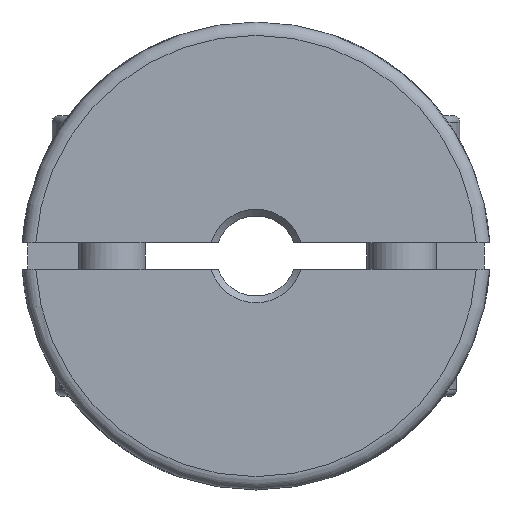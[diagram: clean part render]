
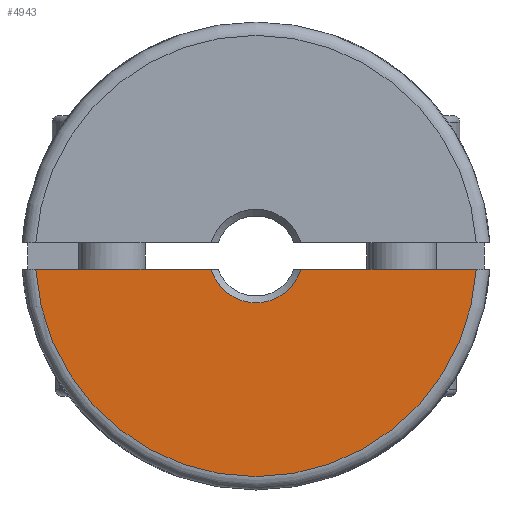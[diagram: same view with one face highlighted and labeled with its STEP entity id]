
A CAD part, left-side view. The second image highlights one B-rep face of the part: STEP entity #4943.
In plain terms, the highlighted planar face has unit normal (-1, 0, 0).
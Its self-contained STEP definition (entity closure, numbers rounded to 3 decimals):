
#127=LINE('',#7879,#303);
#138=LINE('',#7916,#314);
#303=VECTOR('',#6191,1000.);
#314=VECTOR('',#6224,1000.);
#536=PLANE('',#5345);
#1285=ORIENTED_EDGE('',*,*,#1885,.F.);
#1286=ORIENTED_EDGE('',*,*,#1793,.T.);
#1287=ORIENTED_EDGE('',*,*,#1904,.F.);
#1288=ORIENTED_EDGE('',*,*,#1868,.F.);
#1793=EDGE_CURVE('',#2187,#2185,#2451,.T.);
#1868=EDGE_CURVE('',#2253,#2251,#2484,.T.);
#1885=EDGE_CURVE('',#2187,#2253,#127,.T.);
#1904=EDGE_CURVE('',#2251,#2185,#138,.T.);
#2185=VERTEX_POINT('',#7372);
#2187=VERTEX_POINT('',#7375);
#2251=VERTEX_POINT('',#7704);
#2253=VERTEX_POINT('',#7711);
#2451=CIRCLE('',#5260,16.5);
#2484=CIRCLE('',#5312,3.5);
#2779=EDGE_LOOP('',(#1285,#1286,#1287,#1288));
#3103=FACE_BOUND('',#2779,.T.);
#4943=ADVANCED_FACE('',(#3103),#536,.T.);
#5260=AXIS2_PLACEMENT_3D('',#7374,#6032,#6033);
#5312=AXIS2_PLACEMENT_3D('',#7712,#6156,#6157);
#5345=AXIS2_PLACEMENT_3D('',#7925,#6238,#6239);
#6032=DIRECTION('',(-1.,0.,0.));
#6033=DIRECTION('',(0.,0.,-1.));
#6156=DIRECTION('',(-1.,0.,0.));
#6157=DIRECTION('',(0.,0.,-1.));
#6191=DIRECTION('',(0.,-1.,0.));
#6224=DIRECTION('',(0.,-1.,0.));
#6238=DIRECTION('',(-1.,0.,0.));
#6239=DIRECTION('',(0.,0.,-1.));
#7372=CARTESIAN_POINT('',(-26.659,-16.47,-1.));
#7374=CARTESIAN_POINT('',(-26.659,0.,0.));
#7375=CARTESIAN_POINT('',(-26.659,16.47,-1.));
#7704=CARTESIAN_POINT('',(-26.659,-3.354,-1.));
#7711=CARTESIAN_POINT('',(-26.659,3.354,-1.));
#7712=CARTESIAN_POINT('',(-26.659,0.,0.));
#7879=CARTESIAN_POINT('',(-26.659,0.,-1.));
#7916=CARTESIAN_POINT('',(-26.659,0.,-1.));
#7925=CARTESIAN_POINT('',(-26.659,0.,3.));
